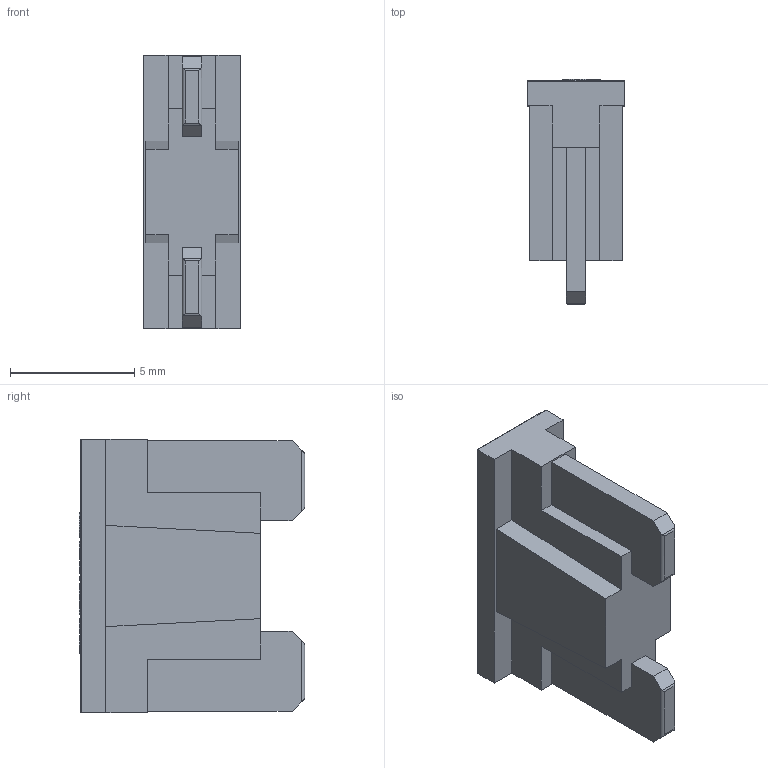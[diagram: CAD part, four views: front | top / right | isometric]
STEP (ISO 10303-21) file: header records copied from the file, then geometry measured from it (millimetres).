
FILE_DESCRIPTION(/* description */ (''),/* implementation_level */ '2;1');
FILE_NAME(/* name */ 'C:\Users\Hani\Desktop\work\APS\APS.stp',/* time_stamp */ '2021-10-15T15:46:22-07:00',/* author */ ('Hani'),/* organization */ (''),/* preprocessor_version */ 'ST-DEVELOPER v17',/* originating_system */ 'Autodesk Inventor 2019',/* authorisation */ '');
FILE_SCHEMA (('AUTOMOTIVE_DESIGN { 1 0 10303 214 3 1 1 }'));
Length unit declared in the file: inch
Products named in the file (1): APS
Bounding box: 3.9 x 9.05 x 11 mm (x, y, z)
Volume: 202.5 mm3; surface area: 323.7 mm2
Topology: 1 solids, 1 shells, 186 faces, 512 edges, 340 vertices
Faces by surface type: plane 107, bspline 67, cylinder 12
Entity records: 6502 total; most frequent: CARTESIAN_POINT 2111, ORIENTED_EDGE 1024, DIRECTION 638, EDGE_CURVE 512, LINE 358, VECTOR 358, VERTEX_POINT 340, EDGE_LOOP 198
